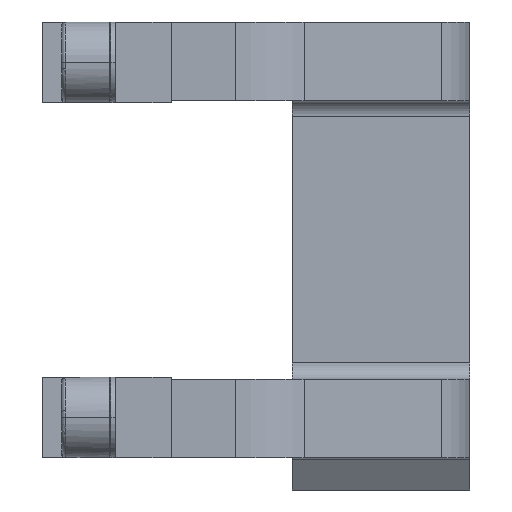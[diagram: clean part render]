
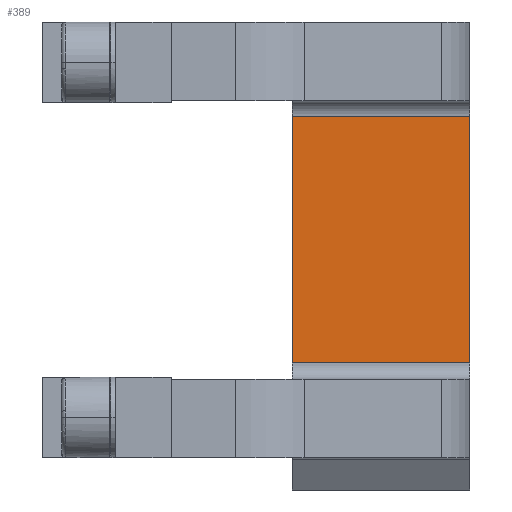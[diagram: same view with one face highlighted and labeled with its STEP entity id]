
A CAD part, front view. The second image highlights one B-rep face of the part: STEP entity #389.
In plain terms, the highlighted planar face has unit normal (0, -1, 0).
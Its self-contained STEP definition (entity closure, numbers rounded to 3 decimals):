
#337=CARTESIAN_POINT('Vertex',(15.,70.,-15.25)) ;
#344=CARTESIAN_POINT('Vertex',(37.,70.,-15.25)) ;
#347=CARTESIAN_POINT('Line Origine',(18.5,70.,-15.25)) ;
#359=CARTESIAN_POINT('Axis2P3D Location',(0.,70.,15.25)) ;
#364=CARTESIAN_POINT('Line Origine',(37.,70.,0.)) ;
#368=CARTESIAN_POINT('Vertex',(37.,70.,15.25)) ;
#371=CARTESIAN_POINT('Line Origine',(26.,70.,15.25)) ;
#375=CARTESIAN_POINT('Vertex',(15.,70.,15.25)) ;
#378=CARTESIAN_POINT('Line Origine',(15.,70.,0.)) ;
#348=DIRECTION('Vector Direction',(-1.,0.,0.)) ;
#360=DIRECTION('Axis2P3D Direction',(0.,-1.,0.)) ;
#361=DIRECTION('Axis2P3D XDirection',(0.,-0.,-1.)) ;
#365=DIRECTION('Vector Direction',(0.,0.,-1.)) ;
#372=DIRECTION('Vector Direction',(1.,0.,0.)) ;
#379=DIRECTION('Vector Direction',(0.,0.,-1.)) ;
#362=AXIS2_PLACEMENT_3D('Plane Axis2P3D',#359,#360,#361) ;
#384=ORIENTED_EDGE('',*,*,#351,.T.) ;
#385=ORIENTED_EDGE('',*,*,#370,.F.) ;
#386=ORIENTED_EDGE('',*,*,#377,.F.) ;
#387=ORIENTED_EDGE('',*,*,#382,.T.) ;
#349=VECTOR('Line Direction',#348,1.) ;
#366=VECTOR('Line Direction',#365,1.) ;
#373=VECTOR('Line Direction',#372,1.) ;
#380=VECTOR('Line Direction',#379,1.) ;
#389=ADVANCED_FACE('Brep With Voids',(#388),#363,.T.) ;
#351=EDGE_CURVE('',#338,#345,#350,.F.) ;
#370=EDGE_CURVE('',#369,#345,#367,.T.) ;
#377=EDGE_CURVE('',#376,#369,#374,.T.) ;
#382=EDGE_CURVE('',#376,#338,#381,.T.) ;
#383=EDGE_LOOP('',(#384,#385,#386,#387)) ;
#388=FACE_OUTER_BOUND('',#383,.T.) ;
#350=LINE('Line',#347,#349) ;
#367=LINE('Line',#364,#366) ;
#374=LINE('Line',#371,#373) ;
#381=LINE('Line',#378,#380) ;
#363=PLANE('Plane',#362) ;
#338=VERTEX_POINT('',#337) ;
#345=VERTEX_POINT('',#344) ;
#369=VERTEX_POINT('',#368) ;
#376=VERTEX_POINT('',#375) ;
